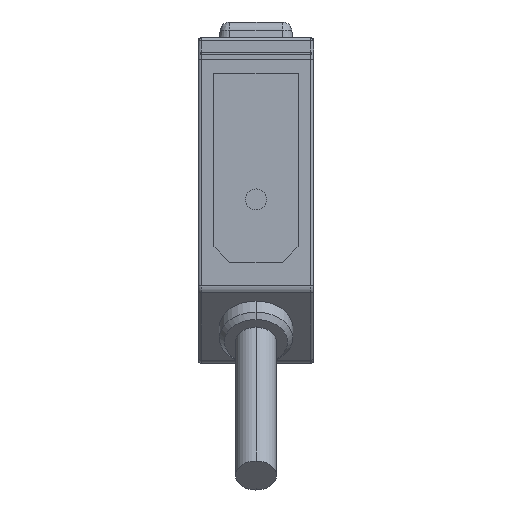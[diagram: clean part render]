
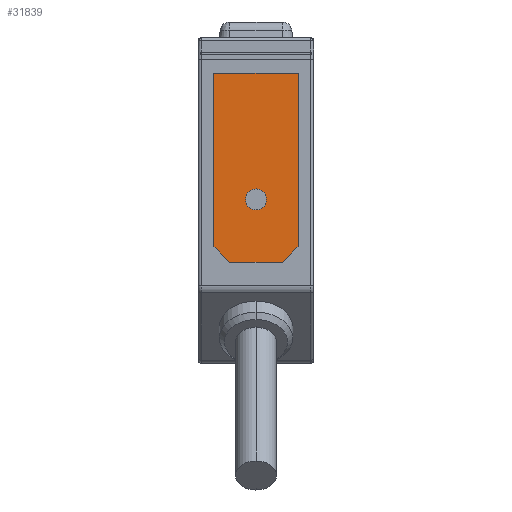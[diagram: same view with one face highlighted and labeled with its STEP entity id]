
A CAD part, front view. The second image highlights one B-rep face of the part: STEP entity #31839.
In plain terms, the highlighted planar face has unit normal (0, -1, 0).
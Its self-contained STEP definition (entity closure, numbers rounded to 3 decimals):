
#673 = VECTOR ( 'NONE', #22789, 1000. ) ;
#862 = ORIENTED_EDGE ( 'NONE', *, *, #31590, .F. ) ;
#905 = VERTEX_POINT ( 'NONE', #5577 ) ;
#1021 = DIRECTION ( 'NONE',  ( -1., 0., 0. ) ) ;
#1460 = AXIS2_PLACEMENT_3D ( 'NONE', #18538, #36443, #25649 ) ;
#3967 = EDGE_LOOP ( 'NONE', ( #27081, #25238 ) ) ;
#4823 = LINE ( 'NONE', #36570, #673 ) ;
#5019 = ORIENTED_EDGE ( 'NONE', *, *, #19477, .T. ) ;
#5577 = CARTESIAN_POINT ( 'NONE',  ( 4., 0.15, 12.8 ) ) ;
#6628 = CARTESIAN_POINT ( 'NONE',  ( -3.25, 0.15, -4.45 ) ) ;
#6973 = VERTEX_POINT ( 'NONE', #22419 ) ;
#7113 = EDGE_CURVE ( 'NONE', #22087, #22444, #29208, .T. ) ;
#8559 = CARTESIAN_POINT ( 'NONE',  ( -4., 0.15, -3.7 ) ) ;
#8577 = DIRECTION ( 'NONE',  ( 0., 0., -1. ) ) ;
#9852 = DIRECTION ( 'NONE',  ( -0.707, 0., -0.707 ) ) ;
#10167 = AXIS2_PLACEMENT_3D ( 'NONE', #28905, #18775, #36699 ) ;
#10537 = LINE ( 'NONE', #24585, #30229 ) ;
#12622 = CARTESIAN_POINT ( 'NONE',  ( 3.25, 0.15, -4.45 ) ) ;
#12714 = VECTOR ( 'NONE', #1021, 1000. ) ;
#12720 = EDGE_CURVE ( 'NONE', #34183, #21284, #4823, .T. ) ;
#15989 = EDGE_CURVE ( 'NONE', #28262, #905, #10537, .T. ) ;
#16084 = ORIENTED_EDGE ( 'NONE', *, *, #40898, .F. ) ;
#16430 = CARTESIAN_POINT ( 'NONE',  ( 0., 0.15, 0.8 ) ) ;
#16750 = LINE ( 'NONE', #12622, #27799 ) ;
#17261 = CARTESIAN_POINT ( 'NONE',  ( -2.5, 0.15, -5.2 ) ) ;
#17493 = DIRECTION ( 'NONE',  ( 0., 0., -1. ) ) ;
#18538 = CARTESIAN_POINT ( 'NONE',  ( 0., 0.15, 0.8 ) ) ;
#18598 = CARTESIAN_POINT ( 'NONE',  ( 0., 0.15, -0.2 ) ) ;
#18775 = DIRECTION ( 'NONE',  ( 0., -1., 0. ) ) ;
#19288 = ORIENTED_EDGE ( 'NONE', *, *, #12720, .T. ) ;
#19477 = EDGE_CURVE ( 'NONE', #905, #6973, #42655, .T. ) ;
#20439 = DIRECTION ( 'NONE',  ( 0., 0., 1. ) ) ;
#20606 = CIRCLE ( 'NONE', #1460, 1. ) ;
#21284 = VERTEX_POINT ( 'NONE', #31327 ) ;
#21365 = DIRECTION ( 'NONE',  ( -0.707, 0., 0.707 ) ) ;
#21429 = VECTOR ( 'NONE', #21365, 1000. ) ;
#21994 = EDGE_LOOP ( 'NONE', ( #24583, #5019, #27040, #16084, #19288, #862 ) ) ;
#22087 = VERTEX_POINT ( 'NONE', #18598 ) ;
#22419 = CARTESIAN_POINT ( 'NONE',  ( -4., 0.15, 12.8 ) ) ;
#22444 = VERTEX_POINT ( 'NONE', #27531 ) ;
#22525 = EDGE_CURVE ( 'NONE', #22444, #22087, #20606, .T. ) ;
#22789 = DIRECTION ( 'NONE',  ( 1., 0., 0. ) ) ;
#23940 = LINE ( 'NONE', #44870, #43262 ) ;
#24583 = ORIENTED_EDGE ( 'NONE', *, *, #15989, .T. ) ;
#24585 = CARTESIAN_POINT ( 'NONE',  ( 4., 0.15, -5.2 ) ) ;
#25238 = ORIENTED_EDGE ( 'NONE', *, *, #22525, .T. ) ;
#25649 = DIRECTION ( 'NONE',  ( 0., 0., -1. ) ) ;
#27040 = ORIENTED_EDGE ( 'NONE', *, *, #32846, .T. ) ;
#27081 = ORIENTED_EDGE ( 'NONE', *, *, #7113, .T. ) ;
#27531 = CARTESIAN_POINT ( 'NONE',  ( 0., 0.15, 1.8 ) ) ;
#27799 = VECTOR ( 'NONE', #9852, 1000. ) ;
#28262 = VERTEX_POINT ( 'NONE', #45077 ) ;
#28475 = AXIS2_PLACEMENT_3D ( 'NONE', #16430, #30468, #8577 ) ;
#28905 = CARTESIAN_POINT ( 'NONE',  ( -5.5, 0.15, 0. ) ) ;
#29208 = CIRCLE ( 'NONE', #28475, 1. ) ;
#29546 = CARTESIAN_POINT ( 'NONE',  ( 4., 0.15, 12.8 ) ) ;
#30229 = VECTOR ( 'NONE', #20439, 1000. ) ;
#30468 = DIRECTION ( 'NONE',  ( 0., 1., 0. ) ) ;
#31327 = CARTESIAN_POINT ( 'NONE',  ( 2.5, 0.15, -5.2 ) ) ;
#31590 = EDGE_CURVE ( 'NONE', #28262, #21284, #16750, .T. ) ;
#31839 = ADVANCED_FACE ( 'NONE', ( #36249, #36463 ), #39702, .T. ) ;
#32846 = EDGE_CURVE ( 'NONE', #6973, #36786, #23940, .T. ) ;
#34183 = VERTEX_POINT ( 'NONE', #17261 ) ;
#36249 = FACE_BOUND ( 'NONE', #3967, .T. ) ;
#36443 = DIRECTION ( 'NONE',  ( 0., 1., 0. ) ) ;
#36463 = FACE_OUTER_BOUND ( 'NONE', #21994, .T. ) ;
#36570 = CARTESIAN_POINT ( 'NONE',  ( -4., 0.15, -5.2 ) ) ;
#36699 = DIRECTION ( 'NONE',  ( 0., 0., -1. ) ) ;
#36786 = VERTEX_POINT ( 'NONE', #8559 ) ;
#39702 = PLANE ( 'NONE',  #10167 ) ;
#40898 = EDGE_CURVE ( 'NONE', #34183, #36786, #45481, .T. ) ;
#42655 = LINE ( 'NONE', #29546, #12714 ) ;
#43262 = VECTOR ( 'NONE', #17493, 1000. ) ;
#44870 = CARTESIAN_POINT ( 'NONE',  ( -4., 0.15, 12.8 ) ) ;
#45077 = CARTESIAN_POINT ( 'NONE',  ( 4., 0.15, -3.7 ) ) ;
#45481 = LINE ( 'NONE', #6628, #21429 ) ;
